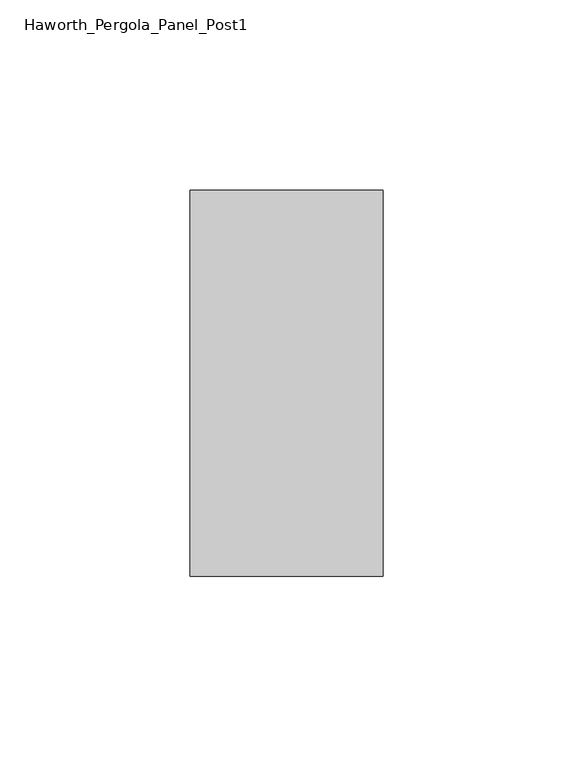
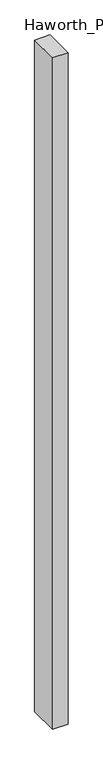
"""IFC4 building model written with IfcOpenShell, lengths in millimetres: furniture geometry, Haworth_Pergola_Panel_Post1 : Underbeam Eor."""

from ifc_helpers import new_model, si_unit, point, frame, frame_2d, origin, origin_with_axes, place, context, project, spatial, polyline, circle_curve, trimmed, segment, composite_curve, outline, extrude, source, transform, mapped, element, save


def haworth_pergola_panel_post1_4695481a(model_context):
    return source(origin(), model_context, "Body", "SweptSolid", [
        extrude(outline(composite_curve([segment(trimmed(circle_curve(frame_2d((12.7000008, 0.0)), 9.525), [point((3.1750008, 0.0))], [point((22.2250008, 0.0))], False, "CARTESIAN"), True, "CONTINUOUS"), segment(trimmed(circle_curve(frame_2d((12.7000008, 0.0)), 9.525), [point((22.2250008, 0.0))], [point((3.1750008, 0.0))], False, "CARTESIAN"), True, "CONTINUOUS")], self_intersect=False)), origin_with_axes(), (0.0, 0.0, 1.0), 12.7),
        extrude(outline(polyline([(38.1, -50.8), (-12.7, -50.8), (-12.7, 50.8), (38.1, 50.8), (38.1, -50.8)])), frame((0.0, 0.0, 12.7), z_axis=(0.0, 0.0, 1.0), x_axis=(1.0, 0.0, 0.0)), (0.0, 0.0, 1.0), 2319.1390625),
    ])


if __name__ == "__main__":
    model = new_model("IFC4")
    model_context = context("Model", 3, world=origin())
    ifc_project = project(units=[si_unit("LENGTHUNIT", "METRE", prefix="MILLI")], contexts=[model_context])
    site = spatial("IfcSite", under=ifc_project)
    building = spatial("IfcBuilding", under=site)
    placement = place(None, origin())
    haworth_pergola_panel_post1_shape = haworth_pergola_panel_post1_4695481a(model_context)
    element("IfcFurniture", 1, ObjectType="Haworth_Pergola_Panel_Post1 : Underbeam Eor", at=placement, inside=building, context=model_context, shape_type="MappedRepresentation", body=[
        mapped(haworth_pergola_panel_post1_shape, transform((0.0, 0.0, 0.0), x_axis=(1.0, 0.0, 0.0), y_axis=(0.0, 1.0, 0.0), z_axis=(0.0, 0.0, 1.0))),
    ])
    save(model, "model.ifc")
